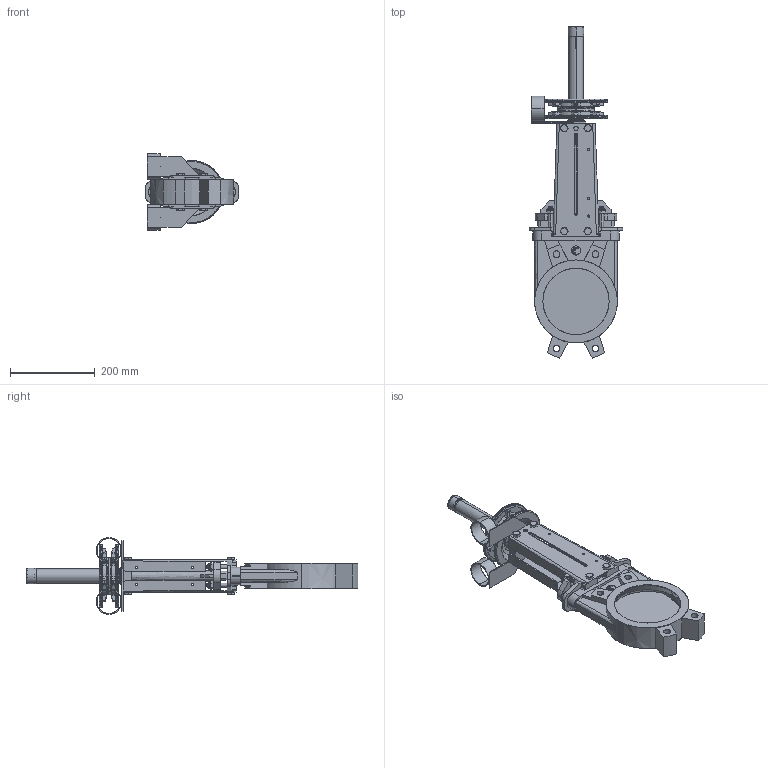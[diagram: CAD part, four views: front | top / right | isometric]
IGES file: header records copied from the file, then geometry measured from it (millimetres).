
Start section: SolidWorks IGES file using analytic representation for surfaces
Global section: file name: D:\part\3D Projects\VG-CHAIN HANDWHEEL(DN50-600)\VG C DN150\VG C DN150.IGS; native system: SolidWorks 2009; preprocessor: SolidWorks 2009; author: zhixin.zheng; date: 100127.153403; units: millimetre
Bounding box: 220 x 781.72 x 180.3 mm (x, y, z)
Surface area: 613063.3 mm2 (no closed solid volume)
Topology: 0 solids, 0 shells, 908 faces, 9789 edges, 9789 vertices
Faces by surface type: bspline 539, revolution 369
